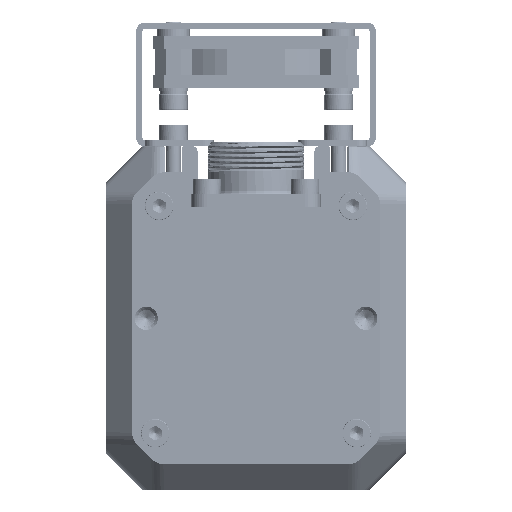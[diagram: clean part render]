
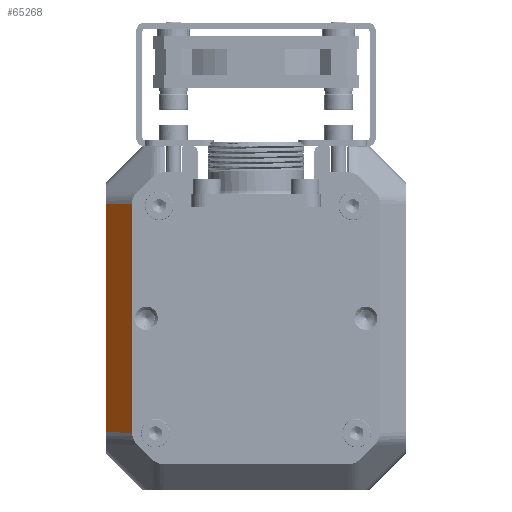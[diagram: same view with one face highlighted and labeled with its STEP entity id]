
A CAD part, front view. The second image highlights one B-rep face of the part: STEP entity #65268.
In plain terms, the highlighted planar face has unit normal (-0.707, -0.707, 0) as drawn and (0.707, 0, 0.707) by its records, which use the part's own axes.
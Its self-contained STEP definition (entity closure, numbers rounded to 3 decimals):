
#59084=DIRECTION('',(0.,1.,0.));
#59085=VECTOR('',#59084,44.094);
#59086=CARTESIAN_POINT('',(29.,-55.297,-5.));
#59087=LINE('',#59086,#59085);
#59933=CARTESIAN_POINT('',(29.,-55.297,-5.));
#59943=DIRECTION('',(-0.707,-0.02,0.707));
#59944=VECTOR('',#59943,7.072);
#59945=CARTESIAN_POINT('',(29.,-55.297,-5.));
#59946=LINE('',#59945,#59944);
#59950=DIRECTION('',(0.,1.,0.));
#59951=VECTOR('',#59950,44.371);
#59952=CARTESIAN_POINT('',(24.,-55.435,0.));
#59953=LINE('',#59952,#59951);
#59957=DIRECTION('',(0.707,-0.02,-0.707));
#59958=VECTOR('',#59957,7.072);
#59959=CARTESIAN_POINT('',(24.,-11.065,0.));
#59960=LINE('',#59959,#59958);
#59964=CARTESIAN_POINT('',(24.,-11.065,0.));
#61571=VERTEX_POINT('',#59964);
#61572=CARTESIAN_POINT('',(24.,-55.435,0.));
#61573=VERTEX_POINT('',#61572);
#62238=VERTEX_POINT('',#59933);
#62239=CARTESIAN_POINT('',(29.,-11.203,-5.));
#62240=VERTEX_POINT('',#62239);
#65256=CARTESIAN_POINT('',(26.5,-33.25,-2.5));
#65257=DIRECTION('',(0.707,0.,0.707));
#65258=DIRECTION('',(0.707,0.,-0.707));
#65259=AXIS2_PLACEMENT_3D('',#65256,#65257,#65258);
#65260=PLANE('',#65259);
#65261=ORIENTED_EDGE('',*,*,#64438,.F.);
#65262=ORIENTED_EDGE('',*,*,#65249,.T.);
#65263=ORIENTED_EDGE('',*,*,#62514,.T.);
#65265=ORIENTED_EDGE('',*,*,#65264,.T.);
#65266=EDGE_LOOP('',(#65261,#65262,#65263,#65265));
#65267=FACE_OUTER_BOUND('',#65266,.F.);
#62514=EDGE_CURVE('',#61573,#61571,#59953,.T.);
#64438=EDGE_CURVE('',#62238,#62240,#59087,.T.);
#65249=EDGE_CURVE('',#62238,#61573,#59946,.T.);
#65264=EDGE_CURVE('',#61571,#62240,#59960,.T.);
#65268=ADVANCED_FACE('',(#65267),#65260,.T.);
